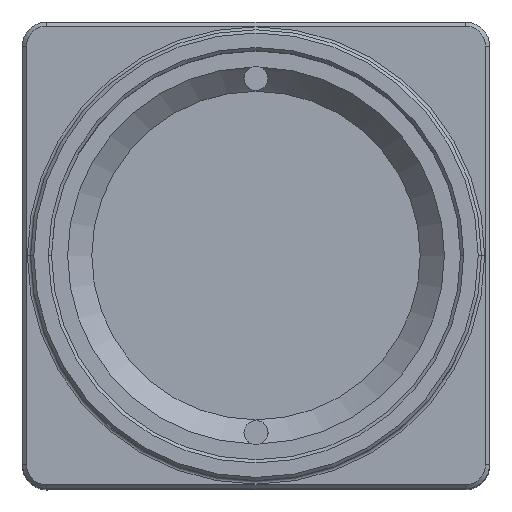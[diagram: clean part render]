
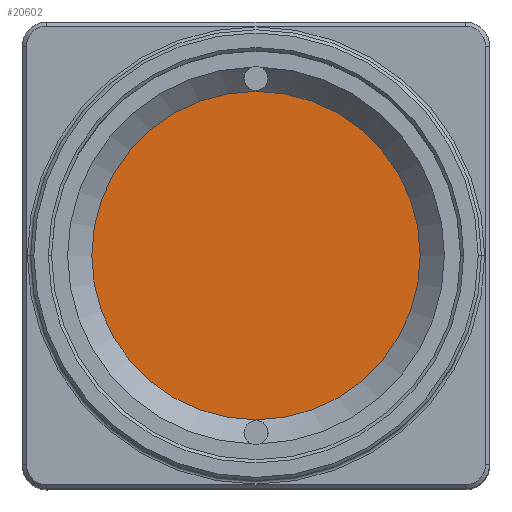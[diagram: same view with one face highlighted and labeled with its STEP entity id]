
A CAD part, top view. The second image highlights one B-rep face of the part: STEP entity #20602.
In plain terms, the highlighted planar face has unit normal (0, 0, 1).
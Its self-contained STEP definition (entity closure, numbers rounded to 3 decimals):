
#250 = CARTESIAN_POINT ( 'NONE',  ( 14.5, -14.5, -3.55 ) ) ;
#1754 = EDGE_CURVE ( 'NONE', #41812, #48362, #65006, .T. ) ;
#11316 = AXIS2_PLACEMENT_3D ( 'NONE', #61293, #41168, #14403 ) ;
#12466 = EDGE_LOOP ( 'NONE', ( #53700, #27218 ) ) ;
#13199 = DIRECTION ( 'NONE',  ( 1., 0., 0. ) ) ;
#14403 = DIRECTION ( 'NONE',  ( 1., 0., 0. ) ) ;
#15875 = DIRECTION ( 'NONE',  ( 1., 0., 0. ) ) ;
#20602 = ADVANCED_FACE ( 'NONE', ( #39005 ), #51904, .T. ) ;
#23058 = AXIS2_PLACEMENT_3D ( 'NONE', #250, #57094, #15875 ) ;
#27218 = ORIENTED_EDGE ( 'NONE', *, *, #1754, .T. ) ;
#28152 = AXIS2_PLACEMENT_3D ( 'NONE', #28196, #54457, #13199 ) ;
#28196 = CARTESIAN_POINT ( 'NONE',  ( 14.5, -14.5, -3.55 ) ) ;
#39005 = FACE_OUTER_BOUND ( 'NONE', #12466, .T. ) ;
#40744 = CARTESIAN_POINT ( 'NONE',  ( 3.25, -14.5, -3.55 ) ) ;
#41168 = DIRECTION ( 'NONE',  ( 0., 0., 1. ) ) ;
#41812 = VERTEX_POINT ( 'NONE', #66493 ) ;
#45893 = EDGE_CURVE ( 'NONE', #48362, #41812, #61547, .T. ) ;
#48362 = VERTEX_POINT ( 'NONE', #40744 ) ;
#51904 = PLANE ( 'NONE',  #23058 ) ;
#53700 = ORIENTED_EDGE ( 'NONE', *, *, #45893, .T. ) ;
#54457 = DIRECTION ( 'NONE',  ( 0., 0., 1. ) ) ;
#57094 = DIRECTION ( 'NONE',  ( 0., 0., 1. ) ) ;
#61293 = CARTESIAN_POINT ( 'NONE',  ( 14.5, -14.5, -3.55 ) ) ;
#61547 = CIRCLE ( 'NONE', #28152, 11.25 ) ;
#65006 = CIRCLE ( 'NONE', #11316, 11.25 ) ;
#66493 = CARTESIAN_POINT ( 'NONE',  ( 25.75, -14.5, -3.55 ) ) ;
